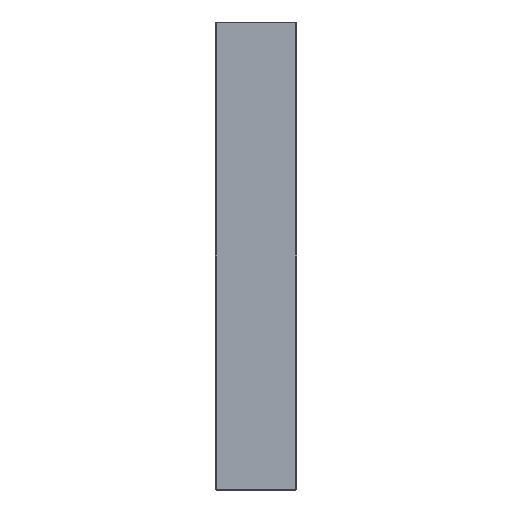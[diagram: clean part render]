
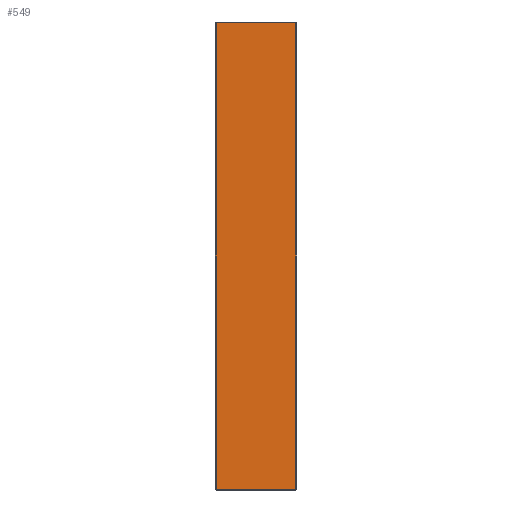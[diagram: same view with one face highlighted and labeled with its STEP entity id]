
A CAD part, left-side view. The second image highlights one B-rep face of the part: STEP entity #549.
In plain terms, the highlighted planar face has unit normal (-1, 0, 0).
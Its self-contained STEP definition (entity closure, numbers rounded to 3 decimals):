
#82 = FACE_OUTER_BOUND ( 'NONE', #2437, .T. ) ;
#219 = CARTESIAN_POINT ( 'NONE',  ( -198., 1., 247. ) ) ;
#234 = ORIENTED_EDGE ( 'NONE', *, *, #2266, .T. ) ;
#265 = LINE ( 'NONE', #2526, #1446 ) ;
#300 = PLANE ( 'NONE',  #314 ) ;
#314 = AXIS2_PLACEMENT_3D ( 'NONE', #515, #707, #713 ) ;
#378 = LINE ( 'NONE', #1328, #961 ) ;
#425 = CARTESIAN_POINT ( 'NONE',  ( -198., 1., 248. ) ) ;
#427 = VERTEX_POINT ( 'NONE', #2299 ) ;
#477 = ORIENTED_EDGE ( 'NONE', *, *, #1212, .T. ) ;
#501 = VECTOR ( 'NONE', #532, 1000. ) ;
#515 = CARTESIAN_POINT ( 'NONE',  ( -198., 86., 248. ) ) ;
#532 = DIRECTION ( 'NONE',  ( 0., 0., 1. ) ) ;
#549 = ADVANCED_FACE ( 'NONE', ( #82 ), #300, .F. ) ;
#617 = CARTESIAN_POINT ( 'NONE',  ( -198., 85., -247. ) ) ;
#707 = DIRECTION ( 'NONE',  ( 1., 0., 0. ) ) ;
#713 = DIRECTION ( 'NONE',  ( 0., 0., -1. ) ) ;
#830 = EDGE_CURVE ( 'NONE', #2053, #427, #2538, .T. ) ;
#961 = VECTOR ( 'NONE', #1431, 1000. ) ;
#1098 = LINE ( 'NONE', #425, #501 ) ;
#1179 = VERTEX_POINT ( 'NONE', #1417 ) ;
#1212 = EDGE_CURVE ( 'NONE', #2048, #1179, #265, .T. ) ;
#1328 = CARTESIAN_POINT ( 'NONE',  ( -198., 85., 248. ) ) ;
#1417 = CARTESIAN_POINT ( 'NONE',  ( -198., 1., -247. ) ) ;
#1431 = DIRECTION ( 'NONE',  ( 0., 0., -1. ) ) ;
#1442 = DIRECTION ( 'NONE',  ( 0., 1., 0. ) ) ;
#1446 = VECTOR ( 'NONE', #2528, 1000. ) ;
#1764 = ORIENTED_EDGE ( 'NONE', *, *, #830, .T. ) ;
#2048 = VERTEX_POINT ( 'NONE', #617 ) ;
#2053 = VERTEX_POINT ( 'NONE', #219 ) ;
#2066 = ORIENTED_EDGE ( 'NONE', *, *, #2338, .T. ) ;
#2145 = CARTESIAN_POINT ( 'NONE',  ( -198., 86., 247. ) ) ;
#2266 = EDGE_CURVE ( 'NONE', #1179, #2053, #1098, .T. ) ;
#2299 = CARTESIAN_POINT ( 'NONE',  ( -198., 85., 247. ) ) ;
#2338 = EDGE_CURVE ( 'NONE', #427, #2048, #378, .T. ) ;
#2437 = EDGE_LOOP ( 'NONE', ( #1764, #2066, #477, #234 ) ) ;
#2488 = VECTOR ( 'NONE', #1442, 1000. ) ;
#2526 = CARTESIAN_POINT ( 'NONE',  ( -198., 86., -247. ) ) ;
#2528 = DIRECTION ( 'NONE',  ( 0., -1., 0. ) ) ;
#2538 = LINE ( 'NONE', #2145, #2488 ) ;
